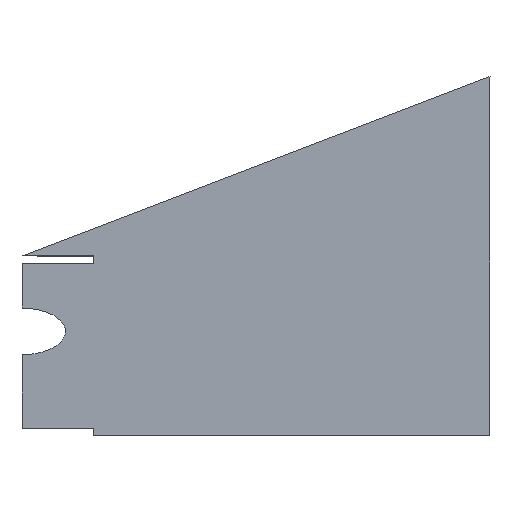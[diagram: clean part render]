
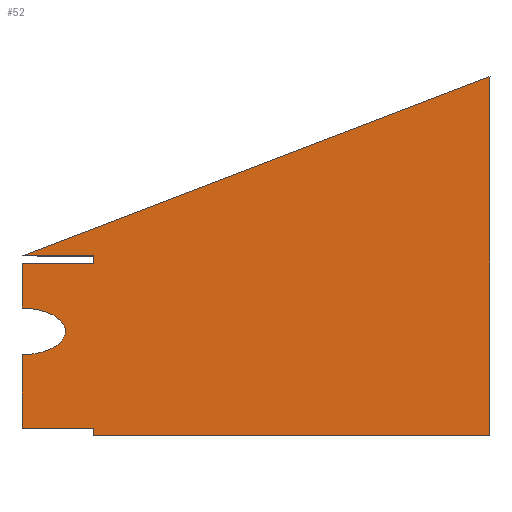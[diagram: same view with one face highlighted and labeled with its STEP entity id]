
A CAD part, top view. The second image highlights one B-rep face of the part: STEP entity #52.
In plain terms, the highlighted planar face has unit normal (0, 0, 1).
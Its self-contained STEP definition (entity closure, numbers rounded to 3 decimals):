
#52=ADVANCED_FACE('',(#70),#71,.F.);
#70=FACE_OUTER_BOUND('',#101,.T.);
#71=PLANE('',#102);
#101=EDGE_LOOP('',(#137,#138,#139,#140,#141,#142,#143,#144,#145,#146,#147));
#102=AXIS2_PLACEMENT_3D('',#148,#149,#150);
#137=ORIENTED_EDGE('',*,*,#256,.T.);
#138=ORIENTED_EDGE('',*,*,#253,.T.);
#139=ORIENTED_EDGE('',*,*,#257,.T.);
#140=ORIENTED_EDGE('',*,*,#258,.F.);
#141=ORIENTED_EDGE('',*,*,#259,.F.);
#142=ORIENTED_EDGE('',*,*,#260,.T.);
#143=ORIENTED_EDGE('',*,*,#261,.T.);
#144=ORIENTED_EDGE('',*,*,#262,.T.);
#145=ORIENTED_EDGE('',*,*,#263,.F.);
#146=ORIENTED_EDGE('',*,*,#264,.T.);
#147=ORIENTED_EDGE('',*,*,#265,.F.);
#148=CARTESIAN_POINT('',(-123.308,-71.935,5.));
#149=DIRECTION('',(0.,0.,-1.0));
#150=DIRECTION('',(-1.0,0.,0.));
#253=EDGE_CURVE('',#293,#290,#294,.T.);
#256=EDGE_CURVE('',#298,#293,#299,.T.);
#257=EDGE_CURVE('',#290,#300,#301,.T.);
#258=EDGE_CURVE('',#302,#300,#303,.T.);
#259=EDGE_CURVE('',#304,#302,#305,.T.);
#260=EDGE_CURVE('',#304,#306,#307,.T.);
#261=EDGE_CURVE('',#306,#308,#309,.T.);
#262=EDGE_CURVE('',#308,#310,#311,.T.);
#263=EDGE_CURVE('',#312,#310,#313,.T.);
#264=EDGE_CURVE('',#312,#314,#315,.T.);
#265=EDGE_CURVE('',#298,#314,#316,.T.);
#290=VERTEX_POINT('',#353);
#293=VERTEX_POINT('',#357);
#294=LINE('',#358,#359);
#298=VERTEX_POINT('',#365);
#299=LINE('',#366,#367);
#300=VERTEX_POINT('',#368);
#301=LINE('',#369,#370);
#302=VERTEX_POINT('',#371);
#303=LINE('',#372,#373);
#304=VERTEX_POINT('',#374);
#305=LINE('',#375,#376);
#306=VERTEX_POINT('',#377);
#307=LINE('',#378,#379);
#308=VERTEX_POINT('',#380);
#309=LINE('',#381,#382);
#310=VERTEX_POINT('',#383);
#311=LINE('',#384,#385);
#312=VERTEX_POINT('',#386);
#313=LINE('',#387,#388);
#314=VERTEX_POINT('',#389);
#315=ELLIPSE('',#390,12.098,6.5);
#316=LINE('',#391,#392);
#353=CARTESIAN_POINT('',(-110.422,-100.,5.));
#357=CARTESIAN_POINT('',(-110.422,-98.,5.));
#358=CARTESIAN_POINT('',(-110.422,-84.968,5.));
#359=VECTOR('',#453,1.0);
#365=CARTESIAN_POINT('',(-130.38,-98.,5.));
#366=CARTESIAN_POINT('',(-122.84,-98.,5.));
#367=VECTOR('',#456,1.0);
#368=CARTESIAN_POINT('',(0.,-100.,5.));
#369=CARTESIAN_POINT('',(-126.657,-100.,5.));
#370=VECTOR('',#457,1.);
#371=CARTESIAN_POINT('',(0.,0.,5.));
#372=CARTESIAN_POINT('',(0.,-100.,5.));
#373=VECTOR('',#458,1.0);
#374=CARTESIAN_POINT('',(-130.38,-50.,5.));
#375=CARTESIAN_POINT('',(0.,0.,5.));
#376=VECTOR('',#459,1.0);
#377=CARTESIAN_POINT('',(-110.422,-50.,5.));
#378=CARTESIAN_POINT('',(-122.84,-50.,5.));
#379=VECTOR('',#460,1.0);
#380=CARTESIAN_POINT('',(-110.422,-52.,5.));
#381=CARTESIAN_POINT('',(-110.422,-60.968,5.));
#382=VECTOR('',#461,1.0);
#383=CARTESIAN_POINT('',(-130.38,-52.,5.));
#384=CARTESIAN_POINT('',(-122.84,-52.,5.));
#385=VECTOR('',#462,1.0);
#386=CARTESIAN_POINT('',(-130.38,-64.5,5.));
#387=CARTESIAN_POINT('',(-130.38,-46.99,5.));
#388=VECTOR('',#463,1.0);
#389=CARTESIAN_POINT('',(-130.38,-77.5,5.));
#390=AXIS2_PLACEMENT_3D('',#464,#465,#466);
#391=CARTESIAN_POINT('',(-130.38,-46.99,5.));
#392=VECTOR('',#467,1.0);
#453=DIRECTION('',(0.,-1.0,0.));
#456=DIRECTION('',(1.0,0.,0.));
#457=DIRECTION('',(1.0,0.,0.));
#458=DIRECTION('',(0.,-1.0,0.));
#459=DIRECTION('',(0.934,0.358,0.));
#460=DIRECTION('',(1.0,0.,0.));
#461=DIRECTION('',(0.,-1.0,0.));
#462=DIRECTION('',(-1.0,0.,0.));
#463=DIRECTION('',(0.,1.0,0.));
#464=CARTESIAN_POINT('',(-130.38,-71.,5.));
#465=DIRECTION('',(0.,0.,-1.0));
#466=DIRECTION('',(-1.0,0.,0.));
#467=DIRECTION('',(0.,1.0,0.));
